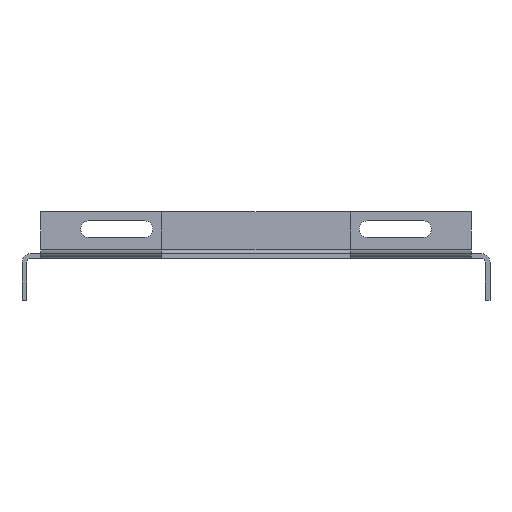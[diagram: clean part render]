
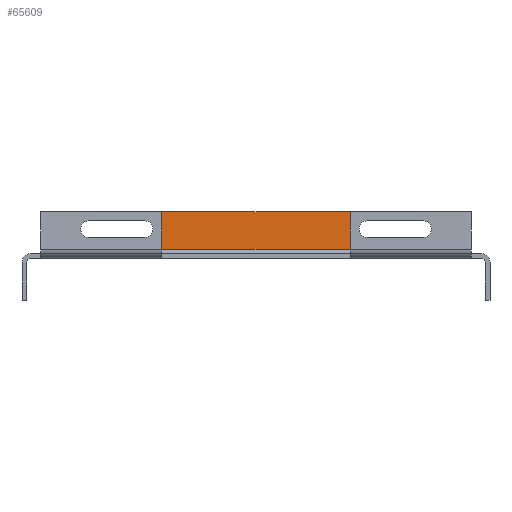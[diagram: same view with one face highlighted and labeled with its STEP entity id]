
A CAD part, front view. The second image highlights one B-rep face of the part: STEP entity #65609.
In plain terms, the highlighted planar face has unit normal (0, -1, 0).
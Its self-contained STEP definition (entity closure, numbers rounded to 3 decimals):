
#1189 = CARTESIAN_POINT ( 'NONE',  ( 0., 1066.3, 14. ) ) ;
#1309 = EDGE_CURVE ( 'NONE', #72558, #62132, #55428, .T. ) ;
#1543 = DIRECTION ( 'NONE',  ( -1., 0., 0. ) ) ;
#2192 = AXIS2_PLACEMENT_3D ( 'NONE', #90900, #30376, #38721 ) ;
#2939 = LINE ( 'NONE', #46786, #43152 ) ;
#3117 = DIRECTION ( 'NONE',  ( 0., 1., 0. ) ) ;
#3155 = VECTOR ( 'NONE', #1543, 1000. ) ;
#4774 = FACE_BOUND ( 'NONE', #83163, .T. ) ;
#5004 = VERTEX_POINT ( 'NONE', #63950 ) ;
#5366 = VERTEX_POINT ( 'NONE', #99759 ) ;
#9113 = CARTESIAN_POINT ( 'NONE',  ( 71.5, 1066.3, 7. ) ) ;
#9195 = AXIS2_PLACEMENT_3D ( 'NONE', #38644, #14704, #107545 ) ;
#9920 = ORIENTED_EDGE ( 'NONE', *, *, #29900, .T. ) ;
#13179 = EDGE_CURVE ( 'NONE', #96887, #44709, #76949, .T. ) ;
#13508 = DIRECTION ( 'NONE',  ( 0., 1., 0. ) ) ;
#14227 = CARTESIAN_POINT ( 'NONE',  ( -71.5, 1066.3, 14. ) ) ;
#14704 = DIRECTION ( 'NONE',  ( 0., 1., 0. ) ) ;
#15122 = VERTEX_POINT ( 'NONE', #9113 ) ;
#17255 = CARTESIAN_POINT ( 'NONE',  ( -92., 1066.3, 0. ) ) ;
#23294 = EDGE_CURVE ( 'NONE', #57943, #15122, #57123, .T. ) ;
#25065 = CIRCLE ( 'NONE', #57038, 3.5 ) ;
#26983 = AXIS2_PLACEMENT_3D ( 'NONE', #81284, #13508, #47384 ) ;
#27060 = CARTESIAN_POINT ( 'NONE',  ( 0., 1066.3, 14. ) ) ;
#27552 = EDGE_CURVE ( 'NONE', #37821, #5366, #108793, .T. ) ;
#27626 = DIRECTION ( 'NONE',  ( 1., 0., 0. ) ) ;
#29057 = AXIS2_PLACEMENT_3D ( 'NONE', #72438, #96912, #37423 ) ;
#29900 = EDGE_CURVE ( 'NONE', #5004, #98262, #2939, .T. ) ;
#30303 = FACE_OUTER_BOUND ( 'NONE', #105157, .T. ) ;
#30376 = DIRECTION ( 'NONE',  ( 0., 1., 0. ) ) ;
#31518 = CARTESIAN_POINT ( 'NONE',  ( 47.5, 1066.3, 14. ) ) ;
#32624 = EDGE_CURVE ( 'NONE', #98262, #5366, #59467, .T. ) ;
#34502 = DIRECTION ( 'NONE',  ( 1., 0., 0. ) ) ;
#35572 = LINE ( 'NONE', #1189, #108369 ) ;
#37018 = ORIENTED_EDGE ( 'NONE', *, *, #65397, .T. ) ;
#37423 = DIRECTION ( 'NONE',  ( 0., 0., 1. ) ) ;
#37821 = VERTEX_POINT ( 'NONE', #106608 ) ;
#38644 = CARTESIAN_POINT ( 'NONE',  ( 0., 1066.3, 0. ) ) ;
#38721 = DIRECTION ( 'NONE',  ( 0., 0., 1. ) ) ;
#40264 = CARTESIAN_POINT ( 'NONE',  ( -47.5, 1066.3, 14. ) ) ;
#40796 = FACE_BOUND ( 'NONE', #62284, .T. ) ;
#40978 = DIRECTION ( 'NONE',  ( -1., 0., 0. ) ) ;
#43152 = VECTOR ( 'NONE', #97366, 1000. ) ;
#44709 = VERTEX_POINT ( 'NONE', #76404 ) ;
#46786 = CARTESIAN_POINT ( 'NONE',  ( 0., 1066.3, 18. ) ) ;
#47384 = DIRECTION ( 'NONE',  ( 0., 0., 1. ) ) ;
#47739 = CARTESIAN_POINT ( 'NONE',  ( 92., 1066.3, 0. ) ) ;
#49156 = PLANE ( 'NONE',  #9195 ) ;
#49347 = CARTESIAN_POINT ( 'NONE',  ( 96.2, 1066.3, 1.8 ) ) ;
#49405 = ORIENTED_EDGE ( 'NONE', *, *, #1309, .T. ) ;
#52317 = EDGE_CURVE ( 'NONE', #37821, #5004, #74367, .T. ) ;
#52431 = CARTESIAN_POINT ( 'NONE',  ( -92., 1066.3, 18. ) ) ;
#53108 = CARTESIAN_POINT ( 'NONE',  ( 47.5, 1066.3, 10.5 ) ) ;
#54121 = VECTOR ( 'NONE', #40978, 1000. ) ;
#54177 = LINE ( 'NONE', #63597, #97479 ) ;
#55428 = CIRCLE ( 'NONE', #2192, 3.5 ) ;
#56296 = ORIENTED_EDGE ( 'NONE', *, *, #27552, .F. ) ;
#57038 = AXIS2_PLACEMENT_3D ( 'NONE', #53108, #3117, #61970 ) ;
#57123 = CIRCLE ( 'NONE', #26983, 3.5 ) ;
#57943 = VERTEX_POINT ( 'NONE', #70953 ) ;
#59467 = LINE ( 'NONE', #17255, #104016 ) ;
#60104 = ORIENTED_EDGE ( 'NONE', *, *, #23294, .T. ) ;
#61970 = DIRECTION ( 'NONE',  ( 0., 0., 1. ) ) ;
#62132 = VERTEX_POINT ( 'NONE', #14227 ) ;
#62284 = EDGE_LOOP ( 'NONE', ( #66514, #60104, #81663, #37018 ) ) ;
#63597 = CARTESIAN_POINT ( 'NONE',  ( 0., 1066.3, 7. ) ) ;
#63950 = CARTESIAN_POINT ( 'NONE',  ( 92., 1066.3, 18. ) ) ;
#64433 = EDGE_CURVE ( 'NONE', #62132, #96887, #35572, .T. ) ;
#65397 = EDGE_CURVE ( 'NONE', #102791, #89994, #25065, .T. ) ;
#65609 = ADVANCED_FACE ( 'NONE', ( #4774, #40796, #30303 ), #49156, .F. ) ;
#66514 = ORIENTED_EDGE ( 'NONE', *, *, #71880, .T. ) ;
#70953 = CARTESIAN_POINT ( 'NONE',  ( 71.5, 1066.3, 14. ) ) ;
#71880 = EDGE_CURVE ( 'NONE', #89994, #57943, #105397, .T. ) ;
#72100 = ORIENTED_EDGE ( 'NONE', *, *, #106604, .T. ) ;
#72438 = CARTESIAN_POINT ( 'NONE',  ( -47.5, 1066.3, 10.5 ) ) ;
#72558 = VERTEX_POINT ( 'NONE', #94452 ) ;
#72742 = ORIENTED_EDGE ( 'NONE', *, *, #13179, .T. ) ;
#74367 = LINE ( 'NONE', #47739, #85734 ) ;
#76404 = CARTESIAN_POINT ( 'NONE',  ( -47.5, 1066.3, 7. ) ) ;
#76949 = CIRCLE ( 'NONE', #29057, 3.5 ) ;
#81284 = CARTESIAN_POINT ( 'NONE',  ( 71.5, 1066.3, 10.5 ) ) ;
#81663 = ORIENTED_EDGE ( 'NONE', *, *, #104869, .T. ) ;
#82300 = DIRECTION ( 'NONE',  ( 0., 0., -1. ) ) ;
#83163 = EDGE_LOOP ( 'NONE', ( #72100, #49405, #94517, #72742 ) ) ;
#85734 = VECTOR ( 'NONE', #107762, 1000. ) ;
#85990 = LINE ( 'NONE', #102664, #3155 ) ;
#87630 = CARTESIAN_POINT ( 'NONE',  ( 47.5, 1066.3, 7. ) ) ;
#89090 = ORIENTED_EDGE ( 'NONE', *, *, #32624, .T. ) ;
#89994 = VERTEX_POINT ( 'NONE', #31518 ) ;
#90900 = CARTESIAN_POINT ( 'NONE',  ( -71.5, 1066.3, 10.5 ) ) ;
#94452 = CARTESIAN_POINT ( 'NONE',  ( -71.5, 1066.3, 7. ) ) ;
#94517 = ORIENTED_EDGE ( 'NONE', *, *, #64433, .T. ) ;
#96378 = DIRECTION ( 'NONE',  ( -1., 0., 0. ) ) ;
#96887 = VERTEX_POINT ( 'NONE', #40264 ) ;
#96912 = DIRECTION ( 'NONE',  ( 0., 1., 0. ) ) ;
#97366 = DIRECTION ( 'NONE',  ( -1., 0., 0. ) ) ;
#97479 = VECTOR ( 'NONE', #96378, 1000. ) ;
#98262 = VERTEX_POINT ( 'NONE', #52431 ) ;
#98858 = VECTOR ( 'NONE', #27626, 1000. ) ;
#99759 = CARTESIAN_POINT ( 'NONE',  ( -92., 1066.3, 1.8 ) ) ;
#100134 = ORIENTED_EDGE ( 'NONE', *, *, #52317, .T. ) ;
#102664 = CARTESIAN_POINT ( 'NONE',  ( 0., 1066.3, 7. ) ) ;
#102791 = VERTEX_POINT ( 'NONE', #87630 ) ;
#104016 = VECTOR ( 'NONE', #82300, 1000. ) ;
#104869 = EDGE_CURVE ( 'NONE', #15122, #102791, #85990, .T. ) ;
#105157 = EDGE_LOOP ( 'NONE', ( #56296, #100134, #9920, #89090 ) ) ;
#105397 = LINE ( 'NONE', #27060, #98858 ) ;
#106604 = EDGE_CURVE ( 'NONE', #44709, #72558, #54177, .T. ) ;
#106608 = CARTESIAN_POINT ( 'NONE',  ( 92., 1066.3, 1.8 ) ) ;
#107545 = DIRECTION ( 'NONE',  ( 0., 0., 1. ) ) ;
#107762 = DIRECTION ( 'NONE',  ( 0., 0., 1. ) ) ;
#108369 = VECTOR ( 'NONE', #34502, 1000. ) ;
#108793 = LINE ( 'NONE', #49347, #54121 ) ;
